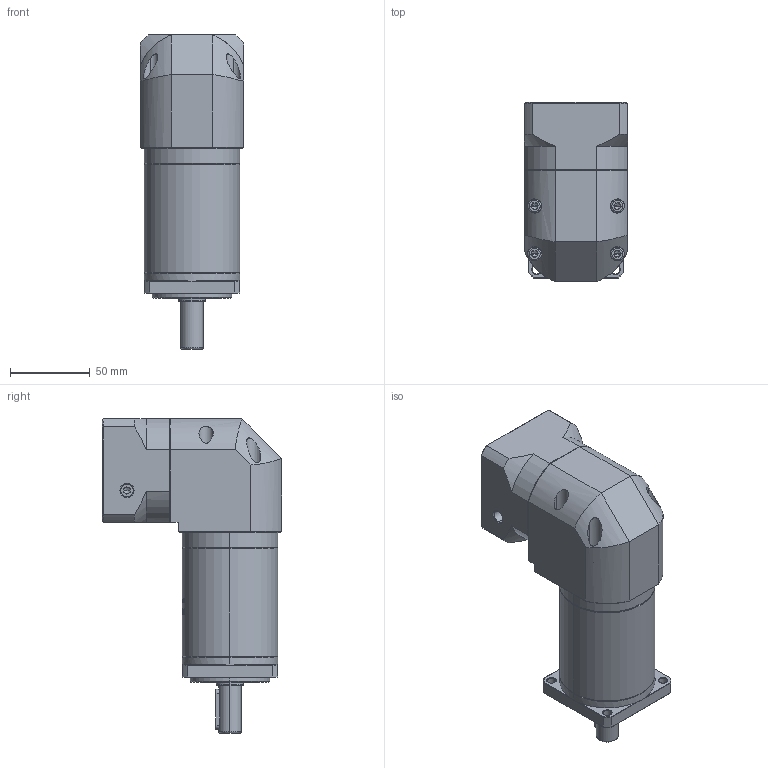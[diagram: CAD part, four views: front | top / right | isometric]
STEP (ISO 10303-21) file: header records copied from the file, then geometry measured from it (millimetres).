
FILE_DESCRIPTION (( 'STEP AP214' ), '1' );
FILE_NAME ('ZFR060-D14-L3-P2-14-60-75-M5.step', '2023-08-17T03:32:41', ( '' ), ( '' ), 'SwSTEP 2.0', 'SolidWorks 2016', '' );
FILE_SCHEMA (( 'AUTOMOTIVE_DESIGN' ));
Length unit declared in the file: millimetre
Products named in the file (1): ZFR060-D14-L3-P2-14-60-75-M5
Bounding box: 65 x 112.7 x 197.5 mm (x, y, z)
Volume: 650510.9 mm3; surface area: 86385.7 mm2
Topology: 5 solids, 6 shells, 1922 faces, 5155 edges, 3330 vertices
Faces by surface type: plane 847, cylinder 407, bspline 354, cone 288, torus 26
Entity records: 106579 total; most frequent: CARTESIAN_POINT 41497, ORIENTED_EDGE 10266, DIRECTION 7687, EDGE_CURVE 5133, VERTEX_POINT 3330, VECTOR 2613, LINE 2613, AXIS2_PLACEMENT_3D 2537
